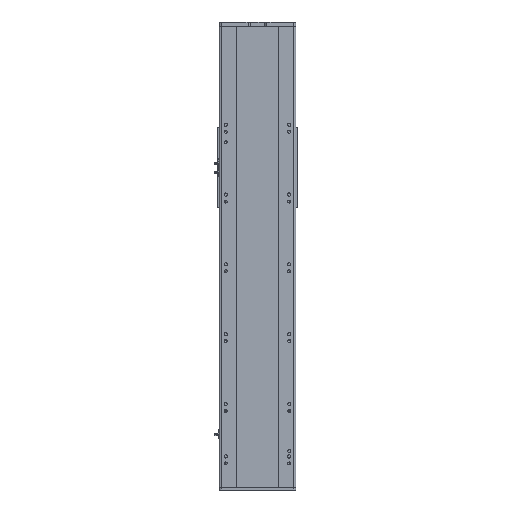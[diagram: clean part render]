
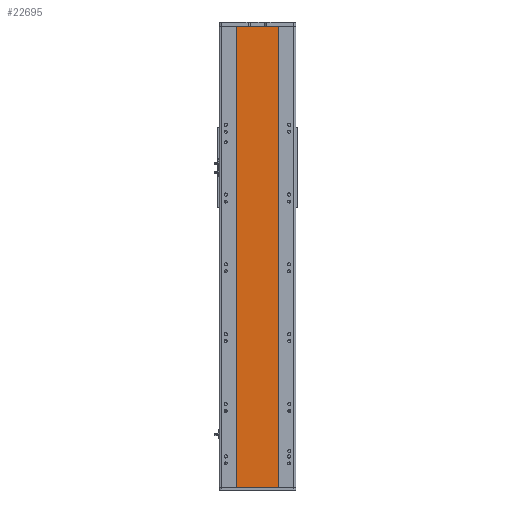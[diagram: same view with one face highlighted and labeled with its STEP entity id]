
A CAD part, front view. The second image highlights one B-rep face of the part: STEP entity #22695.
In plain terms, the highlighted planar face has unit normal (0, -1, 0).
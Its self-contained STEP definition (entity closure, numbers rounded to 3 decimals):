
#2827 = EDGE_CURVE ( 'NONE', #22426, #36181, #33060, .T. ) ;
#3724 = VERTEX_POINT ( 'NONE', #31070 ) ;
#7724 = ORIENTED_EDGE ( 'NONE', *, *, #18147, .T. ) ;
#7891 = CARTESIAN_POINT ( 'NONE',  ( -59., 1., -660.5 ) ) ;
#8204 = EDGE_LOOP ( 'NONE', ( #7724, #19191, #11578, #33717 ) ) ;
#8732 = CARTESIAN_POINT ( 'NONE',  ( 59., 1., 660.5 ) ) ;
#11578 = ORIENTED_EDGE ( 'NONE', *, *, #26973, .F. ) ;
#12537 = CARTESIAN_POINT ( 'NONE',  ( -59., 1., -660.5 ) ) ;
#12864 = CARTESIAN_POINT ( 'NONE',  ( -59., 1., 660.5 ) ) ;
#18147 = EDGE_CURVE ( 'NONE', #36181, #26155, #18553, .T. ) ;
#18553 = LINE ( 'NONE', #7891, #29995 ) ;
#19191 = ORIENTED_EDGE ( 'NONE', *, *, #24121, .F. ) ;
#19873 = DIRECTION ( 'NONE',  ( -1., 0., 0. ) ) ;
#19951 = VECTOR ( 'NONE', #28809, 1000. ) ;
#20207 = DIRECTION ( 'NONE',  ( 0., 0., -1. ) ) ;
#20498 = AXIS2_PLACEMENT_3D ( 'NONE', #22894, #34455, #19873 ) ;
#20694 = DIRECTION ( 'NONE',  ( 0., 0., -1. ) ) ;
#22426 = VERTEX_POINT ( 'NONE', #12864 ) ;
#22658 = LINE ( 'NONE', #25987, #19951 ) ;
#22695 = ADVANCED_FACE ( 'NONE', ( #24378 ), #31369, .F. ) ;
#22894 = CARTESIAN_POINT ( 'NONE',  ( -59., 1., 660.5 ) ) ;
#24121 = EDGE_CURVE ( 'NONE', #3724, #26155, #26062, .T. ) ;
#24378 = FACE_OUTER_BOUND ( 'NONE', #8204, .T. ) ;
#24937 = DIRECTION ( 'NONE',  ( 1., 0., 0. ) ) ;
#25987 = CARTESIAN_POINT ( 'NONE',  ( -59., 1., 660.5 ) ) ;
#26021 = VECTOR ( 'NONE', #20207, 1000. ) ;
#26062 = LINE ( 'NONE', #8732, #26021 ) ;
#26155 = VERTEX_POINT ( 'NONE', #37618 ) ;
#26973 = EDGE_CURVE ( 'NONE', #22426, #3724, #22658, .T. ) ;
#28809 = DIRECTION ( 'NONE',  ( 1., 0., 0. ) ) ;
#29995 = VECTOR ( 'NONE', #24937, 1000. ) ;
#31070 = CARTESIAN_POINT ( 'NONE',  ( 59., 1., 660.5 ) ) ;
#31369 = PLANE ( 'NONE',  #20498 ) ;
#32140 = VECTOR ( 'NONE', #20694, 1000. ) ;
#32672 = CARTESIAN_POINT ( 'NONE',  ( -59., 1., 660.5 ) ) ;
#33060 = LINE ( 'NONE', #32672, #32140 ) ;
#33717 = ORIENTED_EDGE ( 'NONE', *, *, #2827, .T. ) ;
#34455 = DIRECTION ( 'NONE',  ( 0., 1., 0. ) ) ;
#36181 = VERTEX_POINT ( 'NONE', #12537 ) ;
#37618 = CARTESIAN_POINT ( 'NONE',  ( 59., 1., -660.5 ) ) ;
